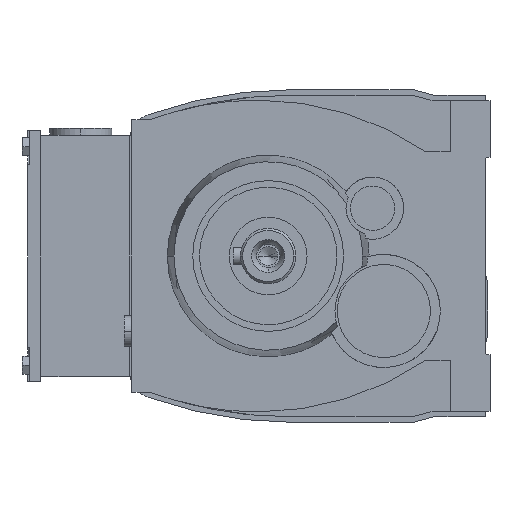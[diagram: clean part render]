
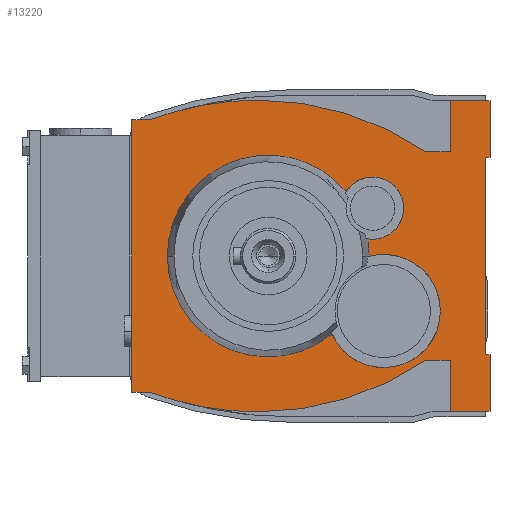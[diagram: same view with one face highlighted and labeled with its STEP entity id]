
A CAD part, left-side view. The second image highlights one B-rep face of the part: STEP entity #13220.
In plain terms, the highlighted planar face has unit normal (-1, 0, 0).
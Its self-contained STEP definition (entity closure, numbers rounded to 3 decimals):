
#3500=CARTESIAN_POINT('',(90.,-45.474,-0.165));
#3510=VERTEX_POINT('',#3500);
#3560=CARTESIAN_POINT('',(90.,-52.104,-24.788));
#3570=DIRECTION('',(-1.,0.,0.));
#3580=DIRECTION('',(0.,-1.,0.));
#3590=AXIS2_PLACEMENT_3D('',#3560,#3570,#3580);
#3600=CIRCLE('',#3590,25.5);
#3610=CARTESIAN_POINT('',(90.,-77.604,-24.788));
#3620=VERTEX_POINT('',#3610);
#3630=EDGE_CURVE('',#3620,#3510,#3600,.T.);
#9410=CARTESIAN_POINT('',(90.,-35.133,28.873));
#9420=VERTEX_POINT('',#9410);
#9450=CARTESIAN_POINT('',(90.,-47.057,21.538));
#9460=DIRECTION('',(-1.,0.,0.));
#9470=DIRECTION('',(0.,-1.,0.));
#9480=AXIS2_PLACEMENT_3D('',#9450,#9460,#9470);
#9490=CIRCLE('',#9480,14.);
#9500=CARTESIAN_POINT('',(90.,-61.057,21.538));
#9510=VERTEX_POINT('',#9500);
#9520=EDGE_CURVE('',#9510,#9420,#9490,.T.);
#9690=CARTESIAN_POINT('',(90.,-11.,-119.5));
#9700=DIRECTION('',(1.,0.,0.));
#9710=DIRECTION('',(0.,0.,-1.));
#9720=AXIS2_PLACEMENT_3D('',#9690,#9700,#9710);
#9730=CIRCLE('',#9720,192.);
#9740=CARTESIAN_POINT('',(90.,53.,61.519));
#9750=VERTEX_POINT('',#9740);
#9760=CARTESIAN_POINT('',(90.,41.922,65.062));
#9770=VERTEX_POINT('',#9760);
#9780=EDGE_CURVE('',#9750,#9770,#9730,.T.);
#10590=CARTESIAN_POINT('',(90.,41.922,-65.062));
#10600=VERTEX_POINT('',#10590);
#10860=CARTESIAN_POINT('',(90.,53.,-61.519));
#10870=VERTEX_POINT('',#10860);
#10900=CARTESIAN_POINT('',(90.,-11.,119.5));
#10910=DIRECTION('',(-1.,0.,0.));
#10920=DIRECTION('',(0.,0.,1.));
#10930=AXIS2_PLACEMENT_3D('',#10900,#10910,#10920);
#10940=CIRCLE('',#10930,192.);
#10950=EDGE_CURVE('',#10870,#10600,#10940,.T.);
#11380=CARTESIAN_POINT('',(90.,-10.612,39.442));
#11390=DIRECTION('',(-1.,0.,0.));
#11400=DIRECTION('',(0.,-1.,0.));
#11410=AXIS2_PLACEMENT_3D('',#11380,#11390,#11400);
#11420=PLANE('',#11410);
#11430=CARTESIAN_POINT('',(90.,0.,0.));
#11440=DIRECTION('',(1.,0.,0.));
#11450=DIRECTION('',(0.,-1.,0.));
#11460=AXIS2_PLACEMENT_3D('',#11430,#11440,#11450);
#11470=CIRCLE('',#11460,45.475);
#11480=CARTESIAN_POINT('',(90.,-45.475,0.));
#11490=VERTEX_POINT('',#11480);
#11500=EDGE_CURVE('',#11490,#3510,#11470,.T.);
#11510=ORIENTED_EDGE('',*,*,#11500,.T.);
#11520=CARTESIAN_POINT('',(90.,-44.815,7.718));
#11530=VERTEX_POINT('',#11520);
#11540=EDGE_CURVE('',#11530,#11490,#11470,.T.);
#11550=ORIENTED_EDGE('',*,*,#11540,.T.);
#11560=EDGE_CURVE('',#11530,#9510,#9490,.T.);
#11570=ORIENTED_EDGE('',*,*,#11560,.F.);
#11580=ORIENTED_EDGE('',*,*,#9520,.F.);
#11590=CARTESIAN_POINT('',(90.,45.475,0.));
#11600=VERTEX_POINT('',#11590);
#11610=EDGE_CURVE('',#11600,#9420,#11470,.T.);
#11620=ORIENTED_EDGE('',*,*,#11610,.T.);
#11630=CARTESIAN_POINT('',(90.,-28.817,-35.178));
#11640=VERTEX_POINT('',#11630);
#11650=EDGE_CURVE('',#11640,#11600,#11470,.T.);
#11660=ORIENTED_EDGE('',*,*,#11650,.T.);
#11670=EDGE_CURVE('',#11640,#3620,#3600,.T.);
#11680=ORIENTED_EDGE('',*,*,#11670,.F.);
#11690=ORIENTED_EDGE('',*,*,#3630,.F.);
#11700=EDGE_LOOP('',(#11690,#11680,#11660,#11620,#11580,#11570,#11550,#11510));
#11710=FACE_BOUND('',#11700,.T.);
#11720=ORIENTED_EDGE('',*,*,#10950,.T.);
#11730=CARTESIAN_POINT('',(90.,53.,-33.712));
#11740=DIRECTION('',(0.,0.,-1.));
#11750=VECTOR('',#11740,1.);
#11760=LINE('',#11730,#11750);
#11770=CARTESIAN_POINT('',(90.,53.,-61.5));
#11780=VERTEX_POINT('',#11770);
#11790=EDGE_CURVE('',#11780,#10870,#11760,.T.);
#11800=ORIENTED_EDGE('',*,*,#11790,.T.);
#11810=CARTESIAN_POINT('',(90.,61.5,-61.5));
#11820=DIRECTION('',(0.,-1.,0.));
#11830=VECTOR('',#11820,1.);
#11840=LINE('',#11810,#11830);
#11850=CARTESIAN_POINT('',(90.,61.5,-61.5));
#11860=VERTEX_POINT('',#11850);
#11870=EDGE_CURVE('',#11860,#11780,#11840,.T.);
#11880=ORIENTED_EDGE('',*,*,#11870,.T.);
#11890=CARTESIAN_POINT('',(90.,61.5,-41.785));
#11900=DIRECTION('',(0.,0.,-1.));
#11910=VECTOR('',#11900,1.);
#11920=LINE('',#11890,#11910);
#11930=CARTESIAN_POINT('',(90.,61.5,61.5));
#11940=VERTEX_POINT('',#11930);
#11950=EDGE_CURVE('',#11940,#11860,#11920,.T.);
#11960=ORIENTED_EDGE('',*,*,#11950,.T.);
#11970=CARTESIAN_POINT('',(90.,61.5,61.5));
#11980=DIRECTION('',(0.,-1.,0.));
#11990=VECTOR('',#11980,1.);
#12000=LINE('',#11970,#11990);
#12010=CARTESIAN_POINT('',(90.,53.,61.5));
#12020=VERTEX_POINT('',#12010);
#12030=EDGE_CURVE('',#11940,#12020,#12000,.T.);
#12040=ORIENTED_EDGE('',*,*,#12030,.F.);
#12050=EDGE_CURVE('',#9750,#12020,#11760,.T.);
#12060=ORIENTED_EDGE('',*,*,#12050,.T.);
#12070=ORIENTED_EDGE('',*,*,#9780,.F.);
#12080=CARTESIAN_POINT('',(90.,4.711,-64.708));
#12090=DIRECTION('',(-1.,0.,0.));
#12100=DIRECTION('',(0.,0.,1.));
#12110=AXIS2_PLACEMENT_3D('',#12080,#12090,#12100);
#12120=CIRCLE('',#12110,135.);
#12130=CARTESIAN_POINT('',(90.,4.711,70.292));
#12140=VERTEX_POINT('',#12130);
#12150=EDGE_CURVE('',#12140,#9770,#12120,.T.);
#12160=ORIENTED_EDGE('',*,*,#12150,.T.);
#12170=CARTESIAN_POINT('',(90.,-71.093,47.));
#12180=VERTEX_POINT('',#12170);
#12190=EDGE_CURVE('',#12180,#12140,#12120,.T.);
#12200=ORIENTED_EDGE('',*,*,#12190,.T.);
#12210=CARTESIAN_POINT('',(90.,0.,47.));
#12220=DIRECTION('',(0.,1.,0.));
#12230=VECTOR('',#12220,1.);
#12240=LINE('',#12210,#12230);
#12250=CARTESIAN_POINT('',(90.,-82.,47.));
#12260=VERTEX_POINT('',#12250);
#12270=EDGE_CURVE('',#12260,#12180,#12240,.T.);
#12280=ORIENTED_EDGE('',*,*,#12270,.T.);
#12290=CARTESIAN_POINT('',(90.,-82.,0.));
#12300=DIRECTION('',(0.,0.,1.));
#12310=VECTOR('',#12300,1.);
#12320=LINE('',#12290,#12310);
#12330=CARTESIAN_POINT('',(90.,-82.,70.));
#12340=VERTEX_POINT('',#12330);
#12350=EDGE_CURVE('',#12260,#12340,#12320,.T.);
#12360=ORIENTED_EDGE('',*,*,#12350,.F.);
#12370=CARTESIAN_POINT('',(90.,0.,70.));
#12380=DIRECTION('',(0.,1.,0.));
#12390=VECTOR('',#12380,1.);
#12400=LINE('',#12370,#12390);
#12410=CARTESIAN_POINT('',(90.,-100.,70.));
#12420=VERTEX_POINT('',#12410);
#12430=EDGE_CURVE('',#12420,#12340,#12400,.T.);
#12440=ORIENTED_EDGE('',*,*,#12430,.T.);
#12450=CARTESIAN_POINT('',(90.,-100.,0.));
#12460=DIRECTION('',(0.,0.,-1.));
#12470=VECTOR('',#12460,1.);
#12480=LINE('',#12450,#12470);
#12490=CARTESIAN_POINT('',(90.,-100.,44.575));
#12500=VERTEX_POINT('',#12490);
#12510=EDGE_CURVE('',#12420,#12500,#12480,.T.);
#12520=ORIENTED_EDGE('',*,*,#12510,.F.);
#12530=CARTESIAN_POINT('',(90.,0.,23.319));
#12540=DIRECTION('',(0.,-0.978,0.208));
#12550=VECTOR('',#12540,1.);
#12560=LINE('',#12530,#12550);
#12570=CARTESIAN_POINT('',(90.,-98.,44.15));
#12580=VERTEX_POINT('',#12570);
#12590=EDGE_CURVE('',#12580,#12500,#12560,.T.);
#12600=ORIENTED_EDGE('',*,*,#12590,.T.);
#12610=CARTESIAN_POINT('',(90.,-98.,0.));
#12620=DIRECTION('',(0.,0.,-1.));
#12630=VECTOR('',#12620,1.);
#12640=LINE('',#12610,#12630);
#12650=CARTESIAN_POINT('',(90.,-98.,-44.15));
#12660=VERTEX_POINT('',#12650);
#12670=EDGE_CURVE('',#12580,#12660,#12640,.T.);
#12680=ORIENTED_EDGE('',*,*,#12670,.F.);
#12690=CARTESIAN_POINT('',(90.,0.,-23.319));
#12700=DIRECTION('',(0.,-0.978,-0.208));
#12710=VECTOR('',#12700,1.);
#12720=LINE('',#12690,#12710);
#12730=CARTESIAN_POINT('',(90.,-100.,-44.575));
#12740=VERTEX_POINT('',#12730);
#12750=EDGE_CURVE('',#12660,#12740,#12720,.T.);
#12760=ORIENTED_EDGE('',*,*,#12750,.F.);
#12770=CARTESIAN_POINT('',(90.,-100.,0.));
#12780=DIRECTION('',(0.,0.,1.));
#12790=VECTOR('',#12780,1.);
#12800=LINE('',#12770,#12790);
#12810=CARTESIAN_POINT('',(90.,-100.,-70.));
#12820=VERTEX_POINT('',#12810);
#12830=EDGE_CURVE('',#12820,#12740,#12800,.T.);
#12840=ORIENTED_EDGE('',*,*,#12830,.T.);
#12850=CARTESIAN_POINT('',(90.,0.,-70.));
#12860=DIRECTION('',(0.,1.,0.));
#12870=VECTOR('',#12860,1.);
#12880=LINE('',#12850,#12870);
#12890=CARTESIAN_POINT('',(90.,-82.,-70.));
#12900=VERTEX_POINT('',#12890);
#12910=EDGE_CURVE('',#12820,#12900,#12880,.T.);
#12920=ORIENTED_EDGE('',*,*,#12910,.F.);
#12930=CARTESIAN_POINT('',(90.,-82.,0.));
#12940=DIRECTION('',(0.,0.,-1.));
#12950=VECTOR('',#12940,1.);
#12960=LINE('',#12930,#12950);
#12970=CARTESIAN_POINT('',(90.,-82.,-47.));
#12980=VERTEX_POINT('',#12970);
#12990=EDGE_CURVE('',#12980,#12900,#12960,.T.);
#13000=ORIENTED_EDGE('',*,*,#12990,.T.);
#13010=CARTESIAN_POINT('',(90.,0.,-47.));
#13020=DIRECTION('',(0.,1.,0.));
#13030=VECTOR('',#13020,1.);
#13040=LINE('',#13010,#13030);
#13050=CARTESIAN_POINT('',(90.,-71.093,-47.));
#13060=VERTEX_POINT('',#13050);
#13070=EDGE_CURVE('',#12980,#13060,#13040,.T.);
#13080=ORIENTED_EDGE('',*,*,#13070,.F.);
#13090=CARTESIAN_POINT('',(90.,4.711,64.708));
#13100=DIRECTION('',(1.,0.,0.));
#13110=DIRECTION('',(0.,0.,-1.));
#13120=AXIS2_PLACEMENT_3D('',#13090,#13100,#13110);
#13130=CIRCLE('',#13120,135.);
#13140=CARTESIAN_POINT('',(90.,4.711,-70.292));
#13150=VERTEX_POINT('',#13140);
#13160=EDGE_CURVE('',#13060,#13150,#13130,.T.);
#13170=ORIENTED_EDGE('',*,*,#13160,.F.);
#13180=EDGE_CURVE('',#13150,#10600,#13130,.T.);
#13190=ORIENTED_EDGE('',*,*,#13180,.F.);
#13200=EDGE_LOOP('',(#13190,#13170,#13080,#13000,#12920,#12840,#12760,#12680,#12600,#12520,#12440,#12360,#12280,#12200,#12160,#12070,#12060,#12040,#11960,#11880,#11800,#11720));
#13210=FACE_OUTER_BOUND('',#13200,.T.);
#13220=ADVANCED_FACE('',(#11710,#13210),#11420,.T.);
